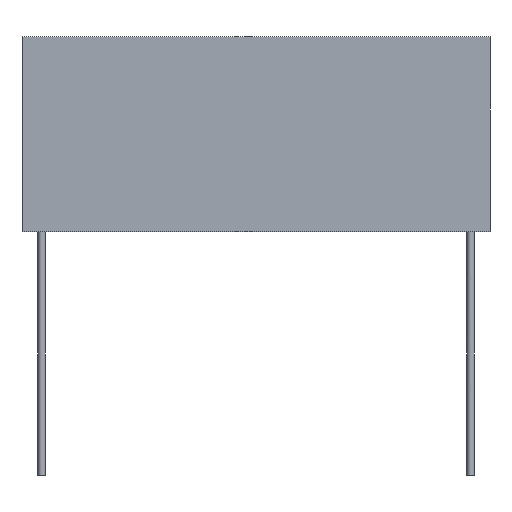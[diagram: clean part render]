
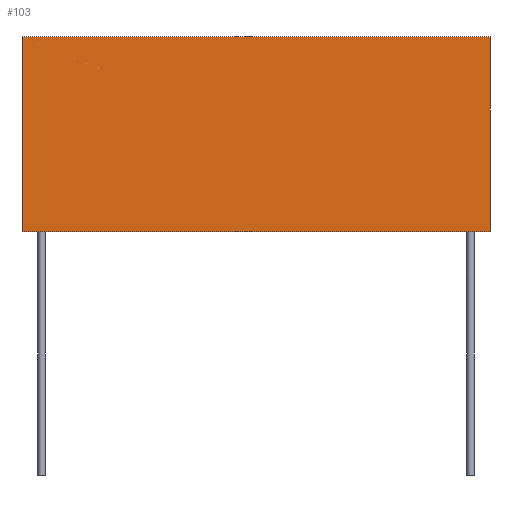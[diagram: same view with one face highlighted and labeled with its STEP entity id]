
A CAD part, front view. The second image highlights one B-rep face of the part: STEP entity #103.
In plain terms, the highlighted planar face has unit normal (0, -1, 0).
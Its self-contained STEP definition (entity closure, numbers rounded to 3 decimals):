
#103=ADVANCED_FACE('',(#187),#189,.F.);
#187=FACE_BOUND('',#188,.T.);
#188=EDGE_LOOP('',(#248,#249,#250,#251));
#189=PLANE('',#190);
#190=AXIS2_PLACEMENT_3D('',#191,#192,#193);
#191=CARTESIAN_POINT('',(0.,-1.4,0.));
#192=DIRECTION('',(0.,1.,0.));
#193=DIRECTION('',(-1.,0.,0.));
#248=ORIENTED_EDGE('',*,*,#279,.F.);
#249=ORIENTED_EDGE('',*,*,#266,.F.);
#250=ORIENTED_EDGE('',*,*,#277,.F.);
#251=ORIENTED_EDGE('',*,*,#280,.F.);
#266=EDGE_CURVE('',#288,#290,#291,.T.);
#277=EDGE_CURVE('',#309,#288,#310,.T.);
#279=EDGE_CURVE('',#290,#312,#313,.T.);
#280=EDGE_CURVE('',#312,#309,#314,.T.);
#288=VERTEX_POINT('',#330);
#290=VERTEX_POINT('',#334);
#291=LINE('',#335,#336);
#309=VERTEX_POINT('',#379);
#310=LINE('',#380,#381);
#312=VERTEX_POINT('',#386);
#313=LINE('',#387,#388);
#314=LINE('',#390,#391);
#330=CARTESIAN_POINT('',(24.,-1.4,0.));
#334=CARTESIAN_POINT('',(-24.,-1.4,0.));
#335=CARTESIAN_POINT('',(24.,-1.4,0.));
#336=VECTOR('',#337,1.);
#337=DIRECTION('',(-1.,0.,0.));
#379=CARTESIAN_POINT('',(24.,-1.4,20.));
#380=CARTESIAN_POINT('',(24.,-1.4,20.));
#381=VECTOR('',#382,1.);
#382=DIRECTION('',(0.,0.,-1.));
#386=CARTESIAN_POINT('',(-24.,-1.4,20.));
#387=CARTESIAN_POINT('',(-24.,-1.4,0.));
#388=VECTOR('',#389,1.);
#389=DIRECTION('',(0.,0.,1.));
#390=CARTESIAN_POINT('',(-24.,-1.4,20.));
#391=VECTOR('',#392,1.);
#392=DIRECTION('',(1.,0.,0.));
